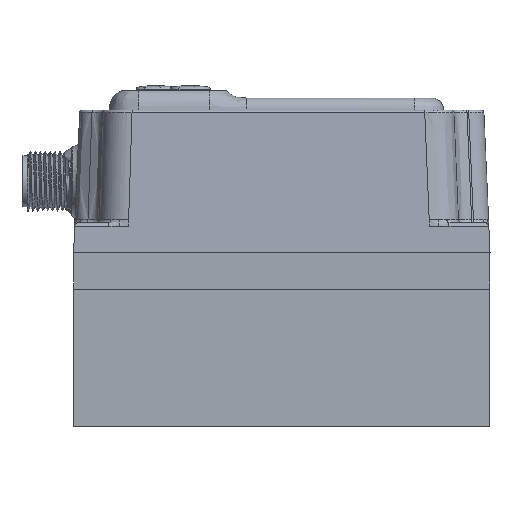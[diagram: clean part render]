
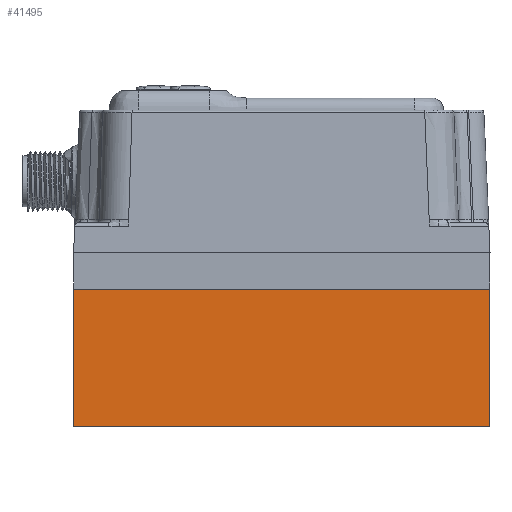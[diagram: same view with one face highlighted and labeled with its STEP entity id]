
A CAD part, front view. The second image highlights one B-rep face of the part: STEP entity #41495.
In plain terms, the highlighted planar face has unit normal (0, -1, 0) as drawn and (-1, 0, 0) by its records, which use the part's own axes.
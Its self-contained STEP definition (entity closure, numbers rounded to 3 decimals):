
#553 = CARTESIAN_POINT ( 'NONE',  ( -21.5, -14., 85. ) ) ;
#1149 = DIRECTION ( 'NONE',  ( 0., -1., 0. ) ) ;
#1700 = EDGE_CURVE ( 'NONE', #9130, #18900, #2001, .T. ) ;
#1955 = CARTESIAN_POINT ( 'NONE',  ( -21.5, 14., 85. ) ) ;
#2001 = LINE ( 'NONE', #13823, #19964 ) ;
#4530 = CARTESIAN_POINT ( 'NONE',  ( -21.5, -14., 85. ) ) ;
#6036 = ORIENTED_EDGE ( 'NONE', *, *, #1700, .T. ) ;
#8904 = DIRECTION ( 'NONE',  ( 0., 0., -1. ) ) ;
#9130 = VERTEX_POINT ( 'NONE', #29113 ) ;
#13823 = CARTESIAN_POINT ( 'NONE',  ( -21.5, 14., 85. ) ) ;
#15569 = EDGE_LOOP ( 'NONE', ( #28628, #32234, #24432, #6036 ) ) ;
#17639 = DIRECTION ( 'NONE',  ( 1., 0., 0. ) ) ;
#18167 = EDGE_CURVE ( 'NONE', #44630, #49631, #42338, .T. ) ;
#18900 = VERTEX_POINT ( 'NONE', #24195 ) ;
#19964 = VECTOR ( 'NONE', #49042, 1000. ) ;
#20443 = LINE ( 'NONE', #40478, #34036 ) ;
#22651 = AXIS2_PLACEMENT_3D ( 'NONE', #1955, #17639, #45126 ) ;
#23964 = VECTOR ( 'NONE', #8904, 1000. ) ;
#24195 = CARTESIAN_POINT ( 'NONE',  ( -21.5, 14., 0. ) ) ;
#24432 = ORIENTED_EDGE ( 'NONE', *, *, #43640, .F. ) ;
#28628 = ORIENTED_EDGE ( 'NONE', *, *, #43636, .T. ) ;
#29113 = CARTESIAN_POINT ( 'NONE',  ( -21.5, 14., 85. ) ) ;
#29439 = FACE_OUTER_BOUND ( 'NONE', #15569, .T. ) ;
#31785 = CARTESIAN_POINT ( 'NONE',  ( -21.5, -14., 0. ) ) ;
#32234 = ORIENTED_EDGE ( 'NONE', *, *, #18167, .F. ) ;
#32243 = CARTESIAN_POINT ( 'NONE',  ( -21.5, 14., 85. ) ) ;
#34036 = VECTOR ( 'NONE', #1149, 1000. ) ;
#37153 = PLANE ( 'NONE',  #22651 ) ;
#40478 = CARTESIAN_POINT ( 'NONE',  ( -21.5, 14., 0. ) ) ;
#41465 = VECTOR ( 'NONE', #44599, 1000. ) ;
#41495 = ADVANCED_FACE ( 'NONE', ( #29439 ), #37153, .F. ) ;
#42338 = LINE ( 'NONE', #4530, #23964 ) ;
#43636 = EDGE_CURVE ( 'NONE', #18900, #49631, #20443, .T. ) ;
#43640 = EDGE_CURVE ( 'NONE', #9130, #44630, #48202, .T. ) ;
#44599 = DIRECTION ( 'NONE',  ( 0., -1., 0. ) ) ;
#44630 = VERTEX_POINT ( 'NONE', #553 ) ;
#45126 = DIRECTION ( 'NONE',  ( 0., 1., 0. ) ) ;
#48202 = LINE ( 'NONE', #32243, #41465 ) ;
#49042 = DIRECTION ( 'NONE',  ( 0., 0., -1. ) ) ;
#49631 = VERTEX_POINT ( 'NONE', #31785 ) ;
